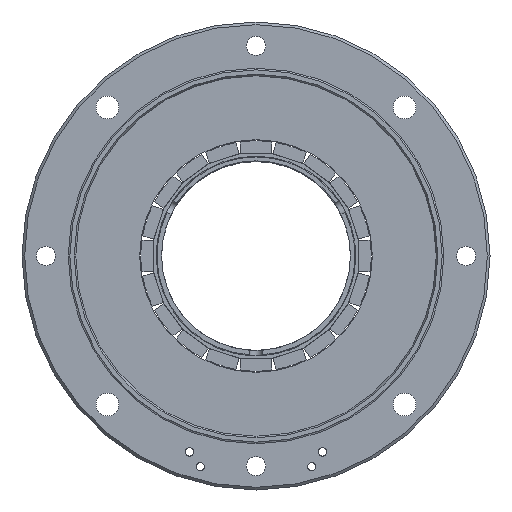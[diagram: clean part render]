
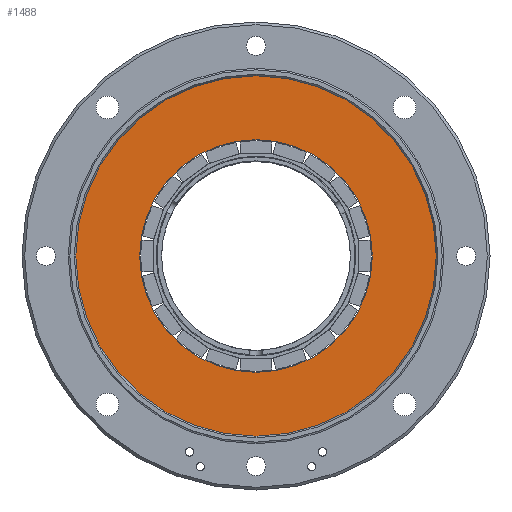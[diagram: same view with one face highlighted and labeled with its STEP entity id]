
A CAD part, left-side view. The second image highlights one B-rep face of the part: STEP entity #1488.
In plain terms, the highlighted planar face has unit normal (-1, 0, 0).
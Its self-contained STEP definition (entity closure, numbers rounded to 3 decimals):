
#226=CARTESIAN_POINT('',(0.5,0.,0.));
#227=DIRECTION('',(-1.,0.,0.));
#228=DIRECTION('',(0.,1.,0.));
#229=AXIS2_PLACEMENT_3D('',#226,#227,#228);
#249=CARTESIAN_POINT('',(0.5,0.,0.));
#250=DIRECTION('',(1.,0.,0.));
#251=DIRECTION('',(0.,1.,0.));
#252=AXIS2_PLACEMENT_3D('',#249,#250,#251);
#257=CARTESIAN_POINT('',(0.5,0.,0.));
#258=DIRECTION('',(-1.,0.,0.));
#259=DIRECTION('',(0.,1.,0.));
#260=AXIS2_PLACEMENT_3D('',#257,#258,#259);
#265=CARTESIAN_POINT('',(0.5,0.,0.));
#266=DIRECTION('',(1.,0.,0.));
#267=DIRECTION('',(0.,1.,0.));
#268=AXIS2_PLACEMENT_3D('',#265,#266,#267);
#1281=CARTESIAN_POINT('',(0.5,21.87,0.));
#1282=CARTESIAN_POINT('',(0.5,-21.87,0.));
#1283=VERTEX_POINT('',#1281);
#1284=VERTEX_POINT('',#1282);
#1294=CARTESIAN_POINT('',(0.5,33.885,0.));
#1296=VERTEX_POINT('',#1294);
#1298=CARTESIAN_POINT('',(0.5,-33.885,0.));
#1300=VERTEX_POINT('',#1298);
#1473=CARTESIAN_POINT('',(0.5,0.,0.));
#1474=DIRECTION('',(1.,0.,0.));
#1475=DIRECTION('',(0.,-1.,0.));
#1476=AXIS2_PLACEMENT_3D('',#1473,#1474,#1475);
#1477=PLANE('',#1476);
#1479=ORIENTED_EDGE('',*,*,#1478,.F.);
#1481=ORIENTED_EDGE('',*,*,#1480,.T.);
#1482=EDGE_LOOP('',(#1479,#1481));
#1483=FACE_OUTER_BOUND('',#1482,.F.);
#1484=ORIENTED_EDGE('',*,*,#1467,.F.);
#1485=ORIENTED_EDGE('',*,*,#1453,.T.);
#1486=EDGE_LOOP('',(#1484,#1485));
#1487=FACE_BOUND('',#1486,.F.);
#1488=ADVANCED_FACE('',(#1483,#1487),#1477,.F.);
#230=CIRCLE('',#229,21.87);
#253=CIRCLE('',#252,21.87);
#261=CIRCLE('',#260,33.885);
#269=CIRCLE('',#268,33.885);
#1453=EDGE_CURVE('',#1283,#1284,#230,.T.);
#1467=EDGE_CURVE('',#1283,#1284,#253,.T.);
#1478=EDGE_CURVE('',#1296,#1300,#261,.T.);
#1480=EDGE_CURVE('',#1296,#1300,#269,.T.);
